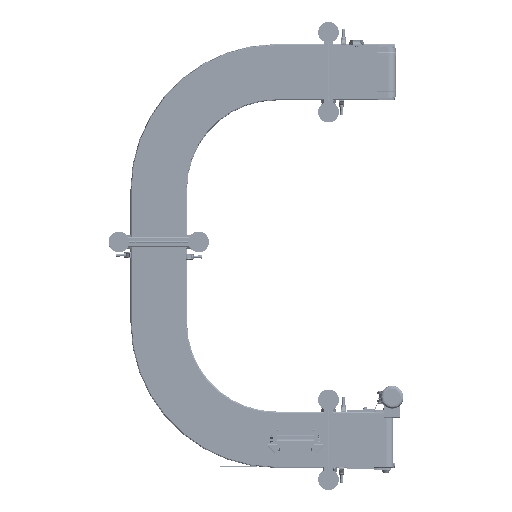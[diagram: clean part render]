
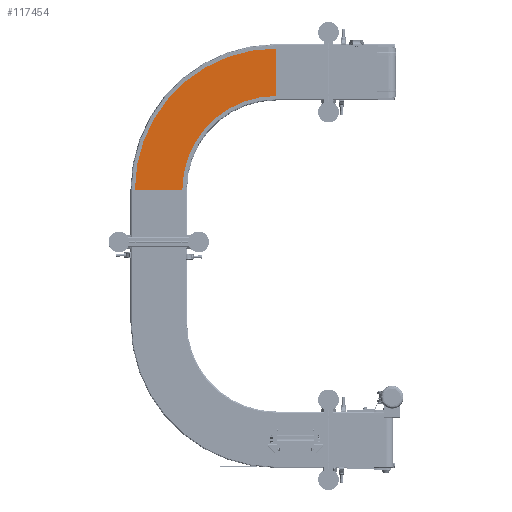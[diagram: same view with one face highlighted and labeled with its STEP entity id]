
A CAD part, front view. The second image highlights one B-rep face of the part: STEP entity #117454.
In plain terms, the highlighted planar face has unit normal (0, -1, 0).
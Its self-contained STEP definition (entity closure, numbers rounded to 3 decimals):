
#3360 = PLANE ( 'NONE',  #115396 ) ;
#11597 = EDGE_CURVE ( 'NONE', #142215, #32583, #191088, .T. ) ;
#15258 = DIRECTION ( 'NONE',  ( 1., 0., 0. ) ) ;
#21542 = CARTESIAN_POINT ( 'NONE',  ( 1205., -74.827, 979.7 ) ) ;
#32583 = VERTEX_POINT ( 'NONE', #21542 ) ;
#33366 = DIRECTION ( 'NONE',  ( 0., -1., 0. ) ) ;
#34191 = CARTESIAN_POINT ( 'NONE',  ( 1655.7, -74.827, 529. ) ) ;
#41527 = VECTOR ( 'NONE', #138119, 1000. ) ;
#51920 = EDGE_LOOP ( 'NONE', ( #194886, #155812, #139435, #185787 ) ) ;
#58703 = DIRECTION ( 'NONE',  ( 0., 0., 1. ) ) ;
#72877 = VECTOR ( 'NONE', #107579, 1000. ) ;
#76788 = CARTESIAN_POINT ( 'NONE',  ( 1655.7, -74.827, 529. ) ) ;
#90040 = VERTEX_POINT ( 'NONE', #173355 ) ;
#93649 = FACE_OUTER_BOUND ( 'NONE', #51920, .T. ) ;
#107579 = DIRECTION ( 'NONE',  ( -1., 0., 0. ) ) ;
#115396 = AXIS2_PLACEMENT_3D ( 'NONE', #76788, #130987, #58703 ) ;
#117454 = ADVANCED_FACE ( 'NONE', ( #93649 ), #3360, .F. ) ;
#128084 = CARTESIAN_POINT ( 'NONE',  ( 1205., -74.827, 529. ) ) ;
#130987 = DIRECTION ( 'NONE',  ( 0., 1., 0. ) ) ;
#136928 = CARTESIAN_POINT ( 'NONE',  ( 1205., -74.827, 979.7 ) ) ;
#138119 = DIRECTION ( 'NONE',  ( 0., 0., -1. ) ) ;
#139435 = ORIENTED_EDGE ( 'NONE', *, *, #163117, .T. ) ;
#142215 = VERTEX_POINT ( 'NONE', #193888 ) ;
#144898 = DIRECTION ( 'NONE',  ( 0., -1., 0. ) ) ;
#148523 = AXIS2_PLACEMENT_3D ( 'NONE', #128084, #144898, #201455 ) ;
#155812 = ORIENTED_EDGE ( 'NONE', *, *, #167858, .F. ) ;
#156332 = EDGE_CURVE ( 'NONE', #90040, #32583, #236990, .T. ) ;
#163117 = EDGE_CURVE ( 'NONE', #199030, #142215, #229545, .T. ) ;
#167858 = EDGE_CURVE ( 'NONE', #199030, #90040, #198987, .T. ) ;
#173355 = CARTESIAN_POINT ( 'NONE',  ( 1655.7, -74.827, 529. ) ) ;
#185787 = ORIENTED_EDGE ( 'NONE', *, *, #11597, .T. ) ;
#191088 = LINE ( 'NONE', #136928, #41527 ) ;
#191278 = AXIS2_PLACEMENT_3D ( 'NONE', #198180, #33366, #15258 ) ;
#193888 = CARTESIAN_POINT ( 'NONE',  ( 1205., -74.827, 1208.3 ) ) ;
#194886 = ORIENTED_EDGE ( 'NONE', *, *, #156332, .F. ) ;
#198180 = CARTESIAN_POINT ( 'NONE',  ( 1205., -74.827, 529. ) ) ;
#198987 = LINE ( 'NONE', #34191, #72877 ) ;
#199030 = VERTEX_POINT ( 'NONE', #223073 ) ;
#201455 = DIRECTION ( 'NONE',  ( 1., 0., 0. ) ) ;
#223073 = CARTESIAN_POINT ( 'NONE',  ( 1884.3, -74.827, 529. ) ) ;
#229545 = CIRCLE ( 'NONE', #191278, 679.3 ) ;
#236990 = CIRCLE ( 'NONE', #148523, 450.7 ) ;
